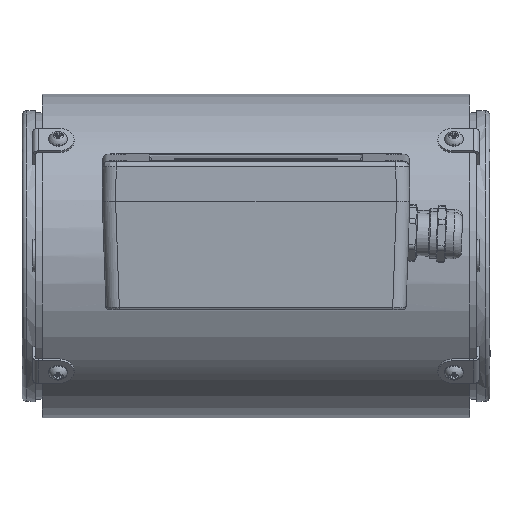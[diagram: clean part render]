
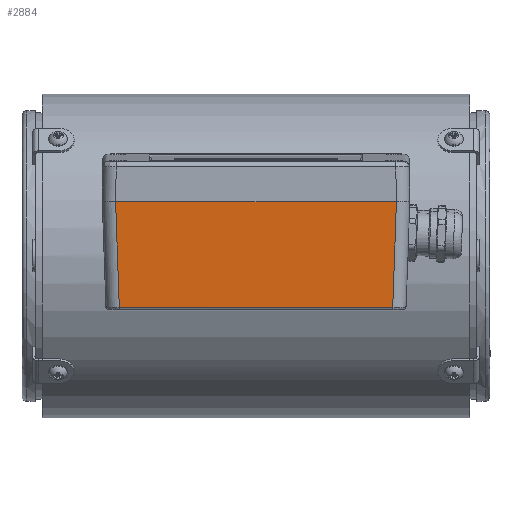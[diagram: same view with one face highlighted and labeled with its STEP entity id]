
A CAD part, top view. The second image highlights one B-rep face of the part: STEP entity #2884.
In plain terms, the highlighted planar face has unit normal (0, -0.07, 0.998).
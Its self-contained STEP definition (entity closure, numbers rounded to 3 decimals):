
#2884=ADVANCED_FACE('',(#11877),#11879,.T.);
#11877=FACE_BOUND('',#11878,.T.);
#11878=EDGE_LOOP('',(#25732,#25733,#25734,#25735,#25736,#25737));
#11879=PLANE('',#11880);
#11880=AXIS2_PLACEMENT_3D('',#11881,#11882,#11883);
#11881=CARTESIAN_POINT('',(-57.5,19.917,205.045));
#11882=DIRECTION('',(0.,-0.07,0.998));
#11883=DIRECTION('',(-1.,0.,0.));
#25732=ORIENTED_EDGE('',*,*,#30343,.F.);
#25733=ORIENTED_EDGE('',*,*,#30344,.T.);
#25734=ORIENTED_EDGE('',*,*,#30235,.F.);
#25735=ORIENTED_EDGE('',*,*,#30166,.F.);
#25736=ORIENTED_EDGE('',*,*,#30216,.F.);
#25737=ORIENTED_EDGE('',*,*,#30345,.T.);
#30166=EDGE_CURVE('',#33252,#33255,#33256,.T.);
#30216=EDGE_CURVE('',#33345,#33252,#33347,.T.);
#30235=EDGE_CURVE('',#33255,#33376,#33377,.T.);
#30343=EDGE_CURVE('',#33551,#33552,#33553,.F.);
#30344=EDGE_CURVE('',#33551,#33376,#33554,.T.);
#30345=EDGE_CURVE('',#33345,#33552,#33555,.T.);
#33252=VERTEX_POINT('',#40796);
#33255=VERTEX_POINT('',#40819);
#33256=LINE('',#40820,#40821);
#33345=VERTEX_POINT('',#41054);
#33347=LINE('',#41059,#41060);
#33376=VERTEX_POINT('',#41132);
#33377=LINE('',#41133,#41134);
#33551=VERTEX_POINT('',#41558);
#33552=VERTEX_POINT('',#41559);
#33553=LINE('',#41560,#41561);
#33554=LINE('',#41563,#41564);
#33555=LINE('',#41566,#41567);
#40796=CARTESIAN_POINT('',(51.122,-19.545,202.286));
#40819=CARTESIAN_POINT('',(-51.122,-19.545,202.286));
#40820=CARTESIAN_POINT('',(51.122,-19.545,202.286));
#40821=VECTOR('',#40822,1.);
#40822=DIRECTION('',(-1.,0.,0.));
#41054=CARTESIAN_POINT('',(52.503,19.917,205.045));
#41059=CARTESIAN_POINT('',(52.503,19.917,205.045));
#41060=VECTOR('',#41061,1.);
#41061=DIRECTION('',(-0.035,-0.997,-0.07));
#41132=CARTESIAN_POINT('',(-52.503,19.917,205.045));
#41133=CARTESIAN_POINT('',(-51.122,-19.545,202.286));
#41134=VECTOR('',#41135,1.);
#41135=DIRECTION('',(-0.035,0.997,0.07));
#41558=CARTESIAN_POINT('',(-52.501,19.917,205.045));
#41559=CARTESIAN_POINT('',(52.501,19.917,205.045));
#41560=CARTESIAN_POINT('',(52.501,19.917,205.045));
#41561=VECTOR('',#41562,1.);
#41562=DIRECTION('',(-1.,0.,0.));
#41563=CARTESIAN_POINT('',(-52.501,19.917,205.045));
#41564=VECTOR('',#41565,1.);
#41565=DIRECTION('',(-1.,0.,0.));
#41566=CARTESIAN_POINT('',(52.503,19.917,205.045));
#41567=VECTOR('',#41568,1.);
#41568=DIRECTION('',(-1.,0.,0.));
